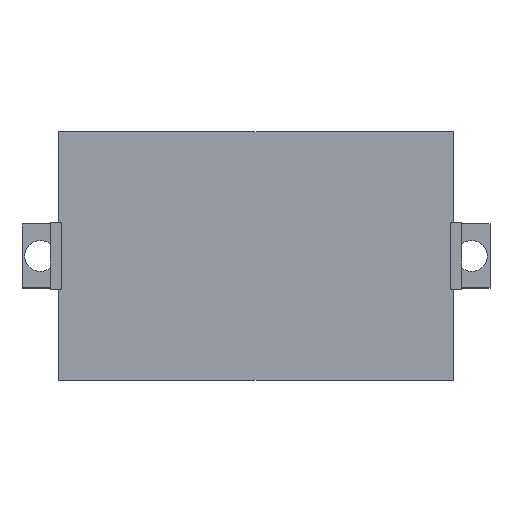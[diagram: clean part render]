
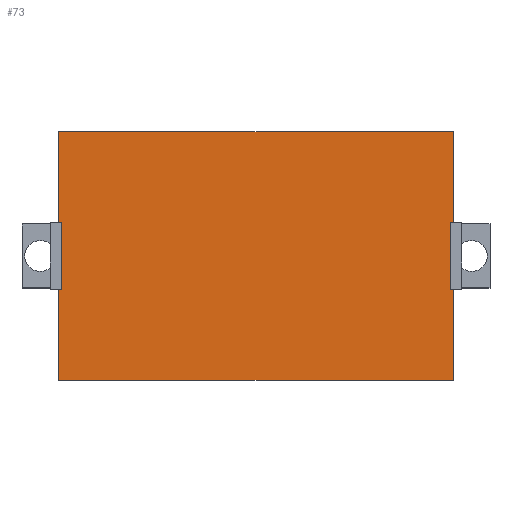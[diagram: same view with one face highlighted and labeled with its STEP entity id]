
A CAD part, top view. The second image highlights one B-rep face of the part: STEP entity #73.
In plain terms, the highlighted planar face has unit normal (0, 0, 1).
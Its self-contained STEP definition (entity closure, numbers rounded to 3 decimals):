
#21 = EDGE_CURVE('',#22,#24,#26,.T.);
#22 = VERTEX_POINT('',#23);
#23 = CARTESIAN_POINT('',(-21.6,-2.85,15.425));
#24 = VERTEX_POINT('',#25);
#25 = CARTESIAN_POINT('',(-21.6,7.11,15.425));
#26 = LINE('',#27,#28);
#27 = CARTESIAN_POINT('',(-21.6,-2.85,15.425));
#28 = VECTOR('',#29,1.);
#29 = DIRECTION('',(0.,1.,0.));
#73 = ADVANCED_FACE('',(#74),#163,.T.);
#74 = FACE_BOUND('',#75,.T.);
#75 = EDGE_LOOP('',(#76,#77,#85,#93,#101,#109,#117,#125,#133,#141,#149,
    #157));
#76 = ORIENTED_EDGE('',*,*,#21,.F.);
#77 = ORIENTED_EDGE('',*,*,#78,.T.);
#78 = EDGE_CURVE('',#22,#79,#81,.T.);
#79 = VERTEX_POINT('',#80);
#80 = CARTESIAN_POINT('',(21.6,-2.85,15.425));
#81 = LINE('',#82,#83);
#82 = CARTESIAN_POINT('',(-21.6,-2.85,15.425));
#83 = VECTOR('',#84,1.);
#84 = DIRECTION('',(1.,0.,0.));
#85 = ORIENTED_EDGE('',*,*,#86,.T.);
#86 = EDGE_CURVE('',#79,#87,#89,.T.);
#87 = VERTEX_POINT('',#88);
#88 = CARTESIAN_POINT('',(21.6,7.11,15.425));
#89 = LINE('',#90,#91);
#90 = CARTESIAN_POINT('',(21.6,-2.85,15.425));
#91 = VECTOR('',#92,1.);
#92 = DIRECTION('',(0.,1.,0.));
#93 = ORIENTED_EDGE('',*,*,#94,.T.);
#94 = EDGE_CURVE('',#87,#95,#97,.T.);
#95 = VERTEX_POINT('',#96);
#96 = CARTESIAN_POINT('',(21.3,7.11,15.425));
#97 = LINE('',#98,#99);
#98 = CARTESIAN_POINT('',(-0.15,7.11,15.425));
#99 = VECTOR('',#100,1.);
#100 = DIRECTION('',(-1.,0.,0.));
#101 = ORIENTED_EDGE('',*,*,#102,.T.);
#102 = EDGE_CURVE('',#95,#103,#105,.T.);
#103 = VERTEX_POINT('',#104);
#104 = CARTESIAN_POINT('',(21.3,14.39,15.425));
#105 = LINE('',#106,#107);
#106 = CARTESIAN_POINT('',(21.3,2.13,15.425));
#107 = VECTOR('',#108,1.);
#108 = DIRECTION('',(0.,1.,0.));
#109 = ORIENTED_EDGE('',*,*,#110,.F.);
#110 = EDGE_CURVE('',#111,#103,#113,.T.);
#111 = VERTEX_POINT('',#112);
#112 = CARTESIAN_POINT('',(21.6,14.39,15.425));
#113 = LINE('',#114,#115);
#114 = CARTESIAN_POINT('',(-0.15,14.39,15.425));
#115 = VECTOR('',#116,1.);
#116 = DIRECTION('',(-1.,0.,0.));
#117 = ORIENTED_EDGE('',*,*,#118,.T.);
#118 = EDGE_CURVE('',#111,#119,#121,.T.);
#119 = VERTEX_POINT('',#120);
#120 = CARTESIAN_POINT('',(21.6,24.35,15.425));
#121 = LINE('',#122,#123);
#122 = CARTESIAN_POINT('',(21.6,-2.85,15.425));
#123 = VECTOR('',#124,1.);
#124 = DIRECTION('',(0.,1.,0.));
#125 = ORIENTED_EDGE('',*,*,#126,.F.);
#126 = EDGE_CURVE('',#127,#119,#129,.T.);
#127 = VERTEX_POINT('',#128);
#128 = CARTESIAN_POINT('',(-21.6,24.35,15.425));
#129 = LINE('',#130,#131);
#130 = CARTESIAN_POINT('',(-21.6,24.35,15.425));
#131 = VECTOR('',#132,1.);
#132 = DIRECTION('',(1.,0.,0.));
#133 = ORIENTED_EDGE('',*,*,#134,.F.);
#134 = EDGE_CURVE('',#135,#127,#137,.T.);
#135 = VERTEX_POINT('',#136);
#136 = CARTESIAN_POINT('',(-21.6,14.39,15.425));
#137 = LINE('',#138,#139);
#138 = CARTESIAN_POINT('',(-21.6,-2.85,15.425));
#139 = VECTOR('',#140,1.);
#140 = DIRECTION('',(0.,1.,0.));
#141 = ORIENTED_EDGE('',*,*,#142,.F.);
#142 = EDGE_CURVE('',#143,#135,#145,.T.);
#143 = VERTEX_POINT('',#144);
#144 = CARTESIAN_POINT('',(-21.3,14.39,15.425));
#145 = LINE('',#146,#147);
#146 = CARTESIAN_POINT('',(-22.05,14.39,15.425));
#147 = VECTOR('',#148,1.);
#148 = DIRECTION('',(-1.,0.,0.));
#149 = ORIENTED_EDGE('',*,*,#150,.F.);
#150 = EDGE_CURVE('',#151,#143,#153,.T.);
#151 = VERTEX_POINT('',#152);
#152 = CARTESIAN_POINT('',(-21.3,7.11,15.425));
#153 = LINE('',#154,#155);
#154 = CARTESIAN_POINT('',(-21.3,2.13,15.425));
#155 = VECTOR('',#156,1.);
#156 = DIRECTION('',(0.,1.,0.));
#157 = ORIENTED_EDGE('',*,*,#158,.T.);
#158 = EDGE_CURVE('',#151,#24,#159,.T.);
#159 = LINE('',#160,#161);
#160 = CARTESIAN_POINT('',(-22.05,7.11,15.425));
#161 = VECTOR('',#162,1.);
#162 = DIRECTION('',(-1.,0.,0.));
#163 = PLANE('',#164);
#164 = AXIS2_PLACEMENT_3D('',#165,#166,#167);
#165 = CARTESIAN_POINT('',(-21.6,-2.85,15.425));
#166 = DIRECTION('',(0.,0.,1.));
#167 = DIRECTION('',(1.,0.,0.));
